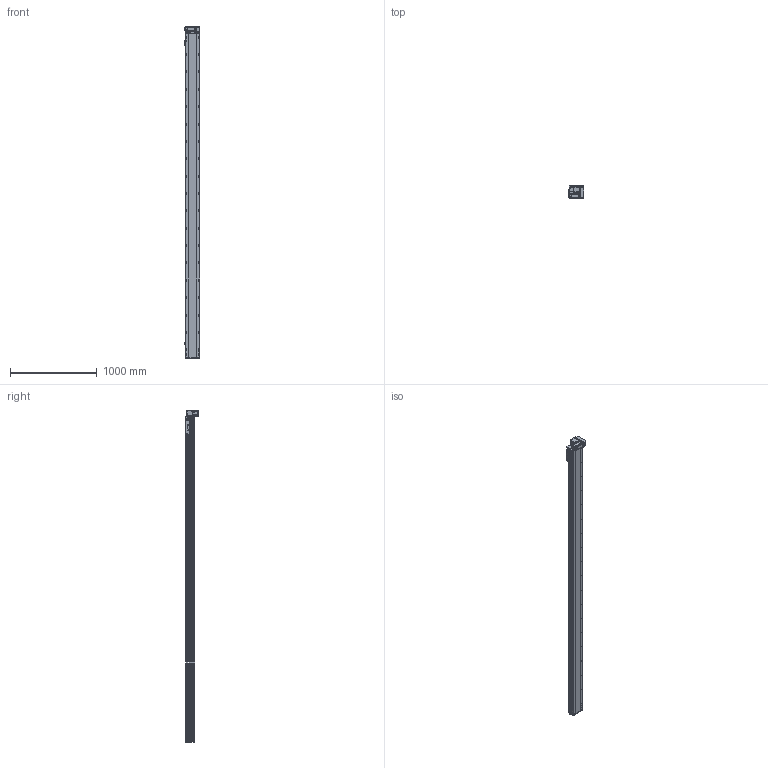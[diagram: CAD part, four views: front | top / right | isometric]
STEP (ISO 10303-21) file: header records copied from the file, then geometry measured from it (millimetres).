
FILE_DESCRIPTION (( 'STEP AP214' ), '1' );
FILE_NAME ('RTB17S-XX-3450-RM-M40-C4.STEP', '2025-12-11T08:39:06', ( '' ), ( '' ), 'SwSTEP 2.0', 'SolidWorks 2018', '' );
FILE_SCHEMA (( 'AUTOMOTIVE_DESIGN' ));
Length unit declared in the file: millimetre
Products named in the file (14): RTB17S-L-007奻裔^RTB17S-XX-XX-RM-M40-C4; RTB14-L-018P^RTB17S-RM-々湍釱蚾饜-400W_RTB17S-XX-XX-RM-M40-C4; 400W侜督萇儂^RTB17S-XX-XX-RM-M40-C4; RTB17-R-011菁釱^RTB17S-XX-XX-RM-M40-C4; RTH13-BL-012覜茼え俋离^RTB17S-XX-XX-RM-M40-C4; RTB14-L-005P--轴承塑胶压盖^RTB17S-RM-皮带座装配-400W_RTB17S-XX-XX-RM-M40-C4; RTB14-L-008-M20--萇儂啣^RTB17S-RM-々湍釱蚾饜-400W_RTB17S-XX-XX-RM-M40-C4; RTB17S-RM-々湍釱蚾饜-400W^RTB17S-XX-XX-RM-M40-C4; RTB17S-L-014-T20--々湍釱^RTB17S-RM-々湍釱蚾饜-400W_RTB17S-XX-XX-RM-M40-C4; RTB17S-L-001耜醱啣^RTB17S-XX-XX-RM-M40-C4; RTB17S-XX-3450-RM-M40-C4; RTB17S-L-004佪裝蹟譫蟀諉釱^RTB17S-XX-XX-RM-M40-C4; RTB14-L-017P^RTB17S-RM-々湍釱蚾饜-400W_RTB17S-XX-XX-RM-M40-C4; OMRON EE-SX672 传感器^RTB17S-XX-XX-RM-M40-C4
Assembly tree (16 placements, depth 3):
  RTB17S-XX-3450-RM-M40-C4
    RTB17-R-011菁釱^RTB17S-XX-XX-RM-M40-C4
    RTB17S-L-007奻裔^RTB17S-XX-XX-RM-M40-C4
    OMRON EE-SX672 传感器^RTB17S-XX-XX-RM-M40-C4  x3
    RTB17S-L-001耜醱啣^RTB17S-XX-XX-RM-M40-C4
    400W侜督萇儂^RTB17S-XX-XX-RM-M40-C4
    RTB17S-L-004佪裝蹟譫蟀諉釱^RTB17S-XX-XX-RM-M40-C4
    RTH13-BL-012覜茼え俋离^RTB17S-XX-XX-RM-M40-C4
    RTB17S-RM-々湍釱蚾饜-400W^RTB17S-XX-XX-RM-M40-C4
      RTB17S-L-014-T20--々湍釱^RTB17S-RM-々湍釱蚾饜-400W_RTB17S-XX-XX-RM-M40-C4
      RTB14-L-005P--轴承塑胶压盖^RTB17S-RM-皮带座装配-400W_RTB17S-XX-XX-RM-M40-C4
      RTB14-L-008-M20--萇儂啣^RTB17S-RM-々湍釱蚾饜-400W_RTB17S-XX-XX-RM-M40-C4
      RTB14-L-017P^RTB17S-RM-々湍釱蚾饜-400W_RTB17S-XX-XX-RM-M40-C4  x2
      RTB14-L-018P^RTB17S-RM-々湍釱蚾饜-400W_RTB17S-XX-XX-RM-M40-C4
Bounding box: 183.5 x 156.5 x 3822.5 mm (x, y, z)
Volume: 32348639.6 mm3; surface area: 3678627.4 mm2
Topology: 15 solids, 15 shells, 2413 faces, 6789 edges, 4437 vertices
Faces by surface type: plane 1094, cylinder 871, bspline 301, cone 139, torus 8
Entity records: 72617 total; most frequent: CARTESIAN_POINT 20794, ORIENTED_EDGE 10422, DIRECTION 9566, EDGE_CURVE 5211, VERTEX_POINT 3425, AXIS2_PLACEMENT_3D 3355, VECTOR 2856, LINE 2856
